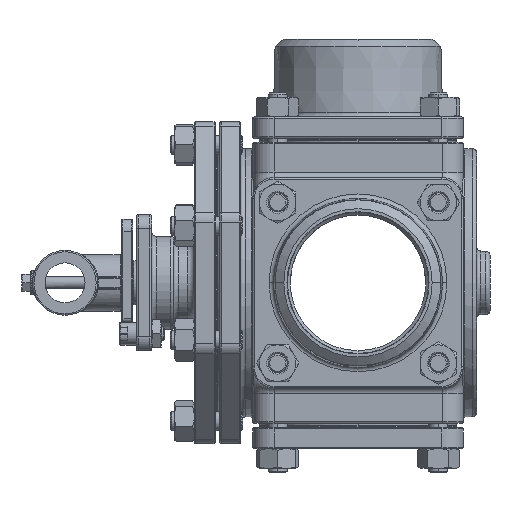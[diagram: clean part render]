
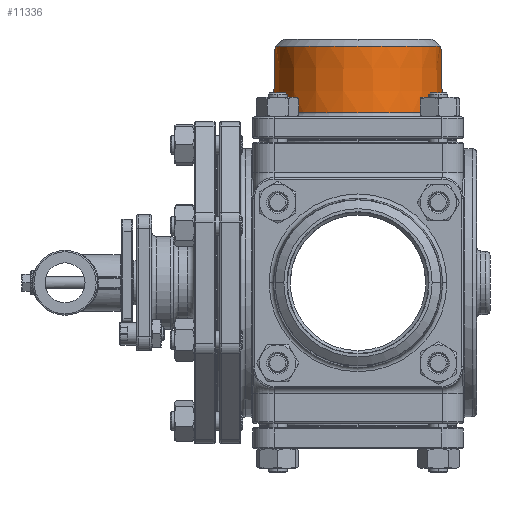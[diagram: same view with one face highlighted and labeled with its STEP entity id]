
A CAD part, left-side view. The second image highlights one B-rep face of the part: STEP entity #11336.
In plain terms, the highlighted conical face has half-angle 1.426 degrees and reference radius 58.75 mm.
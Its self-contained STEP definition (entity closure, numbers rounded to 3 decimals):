
#2981 = FACE_OUTER_BOUND ( 'NONE', #13667, .T. ) ;
#2993 = CONICAL_SURFACE ( 'NONE', #20722, 58.75, 0.025 ) ;
#6108 = ORIENTED_EDGE ( 'NONE', *, *, #29450, .T. ) ;
#6109 = ORIENTED_EDGE ( 'NONE', *, *, #29451, .T. ) ;
#6110 = ORIENTED_EDGE ( 'NONE', *, *, #29452, .F. ) ;
#6111 = ORIENTED_EDGE ( 'NONE', *, *, #29453, .F. ) ;
#7944 = CIRCLE ( 'NONE', #41049, 58.75 ) ;
#7946 = LINE ( 'NONE', #9828, #7952 ) ;
#7951 = CIRCLE ( 'NONE', #41050, 59.927 ) ;
#7952 = VECTOR ( 'NONE', #9816, 1000. ) ;
#7953 = LINE ( 'NONE', #9820, #7957 ) ;
#7957 = VECTOR ( 'NONE', #9827, 1000. ) ;
#9816 = DIRECTION ( 'NONE',  ( 0., 0.025, -1. ) ) ;
#9820 = CARTESIAN_POINT ( 'NONE',  ( 0., -58.75, 167.704 ) ) ;
#9827 = DIRECTION ( 'NONE',  ( 0., -0.025, -1. ) ) ;
#9828 = CARTESIAN_POINT ( 'NONE',  ( 0., 58.75, 167.704 ) ) ;
#9829 = CARTESIAN_POINT ( 'NONE',  ( 0., 0., 167.704 ) ) ;
#9830 = DIRECTION ( 'NONE',  ( 0., 0., -1. ) ) ;
#9831 = DIRECTION ( 'NONE',  ( 0., -1., 0. ) ) ;
#9833 = CARTESIAN_POINT ( 'NONE',  ( 0., 0., 120.425 ) ) ;
#9834 = DIRECTION ( 'NONE',  ( 0., 0., -1. ) ) ;
#9835 = DIRECTION ( 'NONE',  ( 0., -1., 0. ) ) ;
#11336 = ADVANCED_FACE ( 'NONE', ( #2981 ), #2993, .T. ) ;
#13667 = EDGE_LOOP ( 'NONE', ( #6108, #6109, #6110, #6111 ) ) ;
#20722 = AXIS2_PLACEMENT_3D ( 'NONE', #23833, #23834, #23832 ) ;
#23832 = DIRECTION ( 'NONE',  ( 0., -1., 0. ) ) ;
#23833 = CARTESIAN_POINT ( 'NONE',  ( 0., 0., 167.704 ) ) ;
#23834 = DIRECTION ( 'NONE',  ( 0., 0., -1. ) ) ;
#29450 = EDGE_CURVE ( 'NONE', #30912, #30921, #7944, .T. ) ;
#29451 = EDGE_CURVE ( 'NONE', #30921, #30929, #7946, .T. ) ;
#29452 = EDGE_CURVE ( 'NONE', #33067, #30929, #7951, .T. ) ;
#29453 = EDGE_CURVE ( 'NONE', #30912, #33067, #7953, .T. ) ;
#30912 = VERTEX_POINT ( 'NONE', #38082 ) ;
#30921 = VERTEX_POINT ( 'NONE', #38091 ) ;
#30929 = VERTEX_POINT ( 'NONE', #38099 ) ;
#33067 = VERTEX_POINT ( 'NONE', #38707 ) ;
#38082 = CARTESIAN_POINT ( 'NONE',  ( 0., -58.75, 167.704 ) ) ;
#38091 = CARTESIAN_POINT ( 'NONE',  ( 0., 58.75, 167.704 ) ) ;
#38099 = CARTESIAN_POINT ( 'NONE',  ( 0., 59.927, 120.425 ) ) ;
#38707 = CARTESIAN_POINT ( 'NONE',  ( 0., -59.927, 120.425 ) ) ;
#41049 = AXIS2_PLACEMENT_3D ( 'NONE', #9829, #9830, #9831 ) ;
#41050 = AXIS2_PLACEMENT_3D ( 'NONE', #9833, #9834, #9835 ) ;
